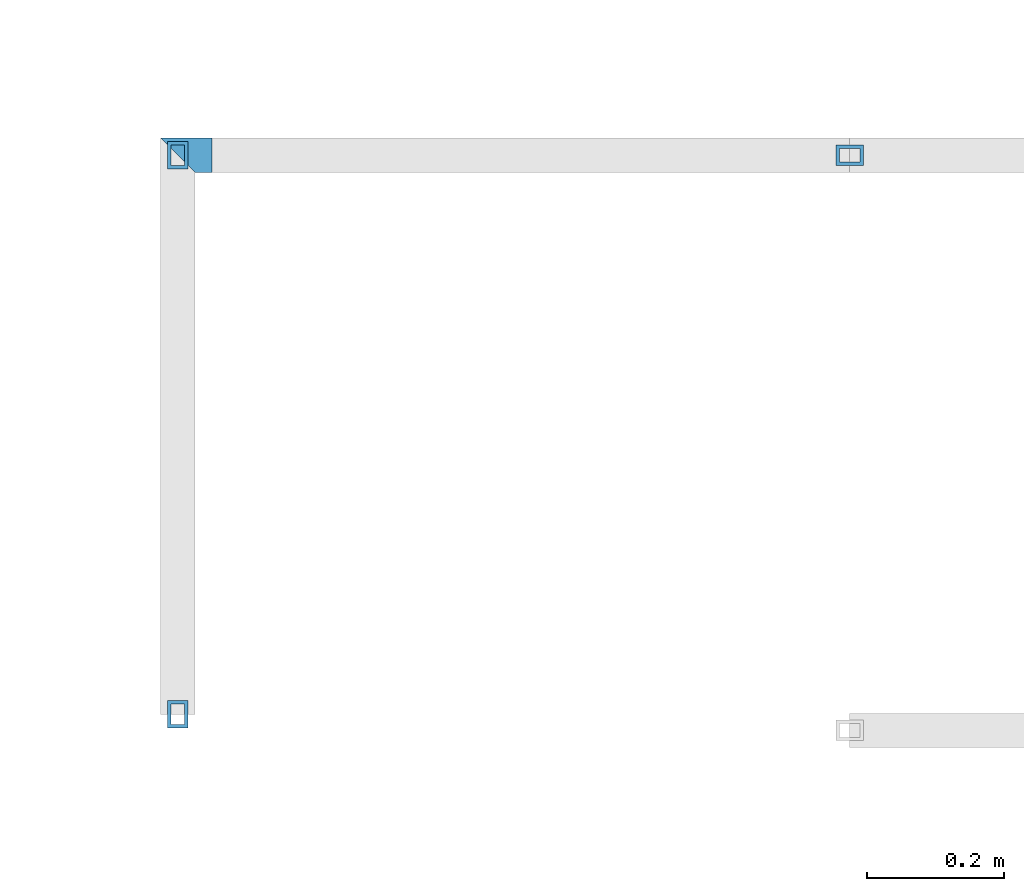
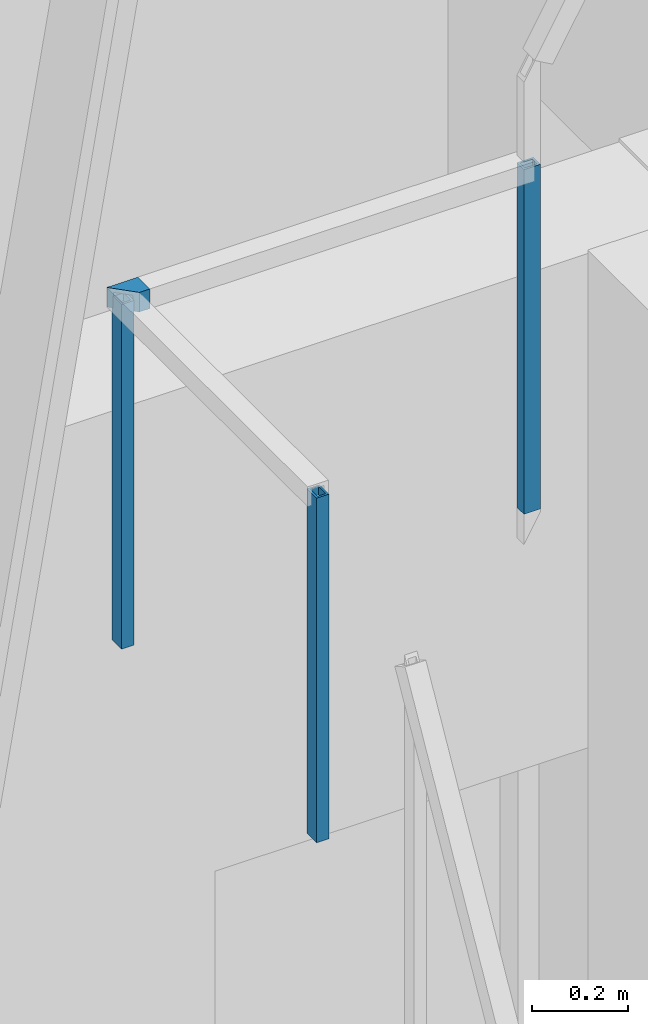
# One storey, part 15 of 418: 4 members, 1 element without a shape of its own.
"""IFC2X3 building model written with IfcOpenShell, lengths in millimetres."""

from ifc_helpers import new_model, entity, si_unit, converted_unit, derived_unit, money_unit, direction, frame, origin_with_axes, place, context, subcontext, project, spatial, faceted_brep, source, transform, mapped, material, type_object, element, aggregate, save


model = new_model("IFC2X3")

# Units and contexts
model_context = context("Model", 3, precision=0.01, world=origin_with_axes(), true_north=direction((0.0, 1.0)))
body_context = subcontext(model_context, "Body", "Model", "MODEL_VIEW")
ifc_project = project(units=[si_unit("LENGTHUNIT", "METRE", prefix="MILLI"), si_unit("AREAUNIT", "SQUARE_METRE"), si_unit("VOLUMEUNIT", "CUBIC_METRE"), converted_unit("PLANEANGLEUNIT", "DEGREE", entity("IfcPlaneAngleMeasure", 0.0174532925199), si_unit("PLANEANGLEUNIT", "RADIAN"), dimensions=[0, 0, 0, 0, 0, 0, 0]), si_unit("SOLIDANGLEUNIT", "STERADIAN"), money_unit("EUR"), converted_unit("TIMEUNIT", "Year", entity("IfcTimeMeasure", 31556926.0), si_unit("TIMEUNIT", "SECOND"), dimensions=[0, 0, 1, 0, 0, 0, 0]), si_unit("MASSUNIT", "GRAM", prefix="KILO"), si_unit("THERMODYNAMICTEMPERATUREUNIT", "DEGREE_CELSIUS"), si_unit("LUMINOUSINTENSITYUNIT", "LUMEN"), si_unit("ENERGYUNIT", "JOULE", prefix="MEGA"), derived_unit("THERMALCONDUCTANCEUNIT", [(si_unit("POWERUNIT", "WATT"), 1), (si_unit("LENGTHUNIT", "METRE"), -1), (si_unit("THERMODYNAMICTEMPERATUREUNIT", "KELVIN"), -1)]), derived_unit("SPECIFICHEATCAPACITYUNIT", [(si_unit("ENERGYUNIT", "JOULE"), 1), (si_unit("MASSUNIT", "GRAM", prefix="KILO"), -1), (si_unit("THERMODYNAMICTEMPERATUREUNIT", "KELVIN"), -1)]), derived_unit("MASSDENSITYUNIT", [(si_unit("MASSUNIT", "GRAM", prefix="KILO"), 1), (si_unit("VOLUMEUNIT", "CUBIC_METRE"), -1)])], contexts=[model_context])

# Site, building, storey
site_placement = place(None, origin_with_axes())
site = spatial("IfcSite", under=ifc_project, at=site_placement, Name="Paldiski mnt 245/1, Tallinn, Harjumaa", CompositionType="COMPLEX")
building_placement = place(site_placement, origin_with_axes())
building = spatial("IfcBuilding", under=site, at=building_placement, Name="RKAS Hoone üldnimetus (kasutust iseloomustav) -> IFC Project Manager -> SOLIBRI", CompositionType="ELEMENT")
storey_placement = place(building_placement, origin_with_axes())
storey = spatial("IfcBuildingStorey", under=building, at=storey_placement, Name="Esimene korrus", CompositionType="ELEMENT", Elevation=0.0)

# Railing, members
railing_type = type_object("IfcRailingType", Name="Railing Type", PredefinedType="NOTDEFINED")
railing_placement = place(storey_placement, frame((-54954.2897644, -4493.79536776, 10418.9997911), z_axis=(0.0, 0.0, 1.0), x_axis=(-0.773149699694, -0.634223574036, 0.0)))
railing = element("IfcRailing", 1, at=railing_placement, inside=storey, type_object=railing_type, Name="PIIRE", PredefinedType="NOTDEFINED")
ifc_material_1 = material(Name="ET-06_Teras - Konstruktsioon")
member_type_1 = type_object("IfcMemberType", Name="IfcMember", PredefinedType="POST")
shared_shape_1 = source(origin_with_axes(), body_context, "Body", "Brep", [
    faceted_brep([(15.0, 20.0, 0.0), (-15.0, 20.0, 0.0), (-15.0, 20.0, 880.0), (15.0, 20.0, 880.0), (15.0, -20.0, 0.0), (-15.0, -20.0, 0.0), (10.0, 15.0, 0.0), (-10.0, 15.0, 0.0), (-10.0, -15.0, 0.0), (10.0, -15.0, 0.0), (-15.0, -20.0, 880.0), (15.0, -20.0, 880.0), (10.0, 15.0, 880.0), (10.0, -15.0, 880.0), (-10.0, -15.0, 880.0), (-10.0, 15.0, 880.0)], [[[0, 1, 2, 3]], [[0, 4, 5, 1], [6, 7, 8, 9]], [[1, 5, 10, 2]], [[3, 2, 10, 11], [12, 13, 14, 15]], [[4, 0, 3, 11]], [[5, 4, 11, 10]], [[7, 6, 12, 15]], [[8, 7, 15, 14]], [[9, 8, 14, 13]], [[6, 9, 13, 12]]]),
])
member_1_placement = place(railing_placement, frame((-63.4223574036, -77.3149699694, 0.0), z_axis=(0.0, 0.0, 1.0), x_axis=(-0.773149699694, 0.634223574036, 0.0)))
member_1 = element("IfcMember", 2, at=member_1_placement, type_object=member_type_1, material=ifc_material_1, Name="PIIRDE POST - 001", ObjectType="POST", context=body_context, shape_type="MappedRepresentation", body=[
    mapped(shared_shape_1, transform((0.0, 0.0, 0.0))),
])
member_2_placement = place(railing_placement, frame((-580.39400079, -707.528804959, 0.0), z_axis=(0.0, 0.0, 1.0), x_axis=(-0.773149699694, 0.634223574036, 0.0)))
member_2 = element("IfcMember", 3, at=member_2_placement, type_object=member_type_1, material=ifc_material_1, Name="PIIRDE POST - 001", ObjectType="POST", context=body_context, shape_type="MappedRepresentation", body=[
    mapped(shared_shape_1, transform((0.0, 0.0, 0.0))),
])
member_3_placement = place(railing_placement, frame((-1337.61149316, -86.3746034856, 0.0), z_axis=(0.0, 0.0, 1.0), x_axis=(-0.773149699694, 0.634223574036, 0.0)))
member_3 = element("IfcMember", 4, at=member_3_placement, type_object=member_type_1, material=ifc_material_1, Name="PIIRDE POST - 001", ObjectType="POST", context=body_context, shape_type="MappedRepresentation", body=[
    mapped(shared_shape_1, transform((0.0, 0.0, 0.0), x_axis=(0.0, -1.0, 0.0), y_axis=(1.0, 0.0, 0.0), z_axis=(0.0, 0.0, 1.0))),
])
ifc_material_2 = material(Name="ET-07_Teras - Roostevaba")
member_type_2 = type_object("IfcMemberType", Name="IfcMember", PredefinedType="USERDEFINED")
shared_shape_2 = source(origin_with_axes(), body_context, "Body", "Brep", [
    faceted_brep([(50.0, 15.0, 860.0), (50.0, 15.0, 890.0), (-15.0, 15.0, 890.0), (-15.0, 15.0, 860.0), (50.0, 25.0, 850.0), (50.0, 25.0, 900.0), (50.0, -25.0, 900.0), (50.0, -25.0, 850.0), (50.0, -15.0, 890.0), (50.0, -15.0, 860.0), (15.0, -15.0, 890.0), (-25.0, 25.0, 900.0), (-25.0, 25.0, 850.0), (25.0, -25.0, 850.0), (25.0, -25.0, 900.0), (15.0, -15.0, 860.0)], [[[0, 1, 2, 3]], [[4, 5, 6, 7], [8, 1, 0, 9]], [[1, 8, 10, 2]], [[11, 12, 13, 14], [15, 3, 2, 10]], [[9, 0, 3, 15]], [[5, 4, 12, 11]], [[6, 5, 11, 14]], [[7, 6, 14, 13]], [[4, 7, 13, 12]], [[8, 9, 15, 10]]]),
])
member_4_placement = place(railing_placement, frame((0.0, 0.0, 0.0), z_axis=(0.0, 0.0, 1.0), x_axis=(-0.773149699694, 0.634223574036, 0.0)))
member_4 = element("IfcMember", 5, at=member_4_placement, type_object=member_type_2, material=ifc_material_2, Name="Piirde ülemise osa ühendus - 001", ObjectType="Rail", context=body_context, shape_type="MappedRepresentation", body=[
    mapped(shared_shape_2, transform((0.0, 915.125240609, 0.0))),
])
aggregate(railing, [member_1, member_2, member_4, member_3])

save(model, "model.ifc")
